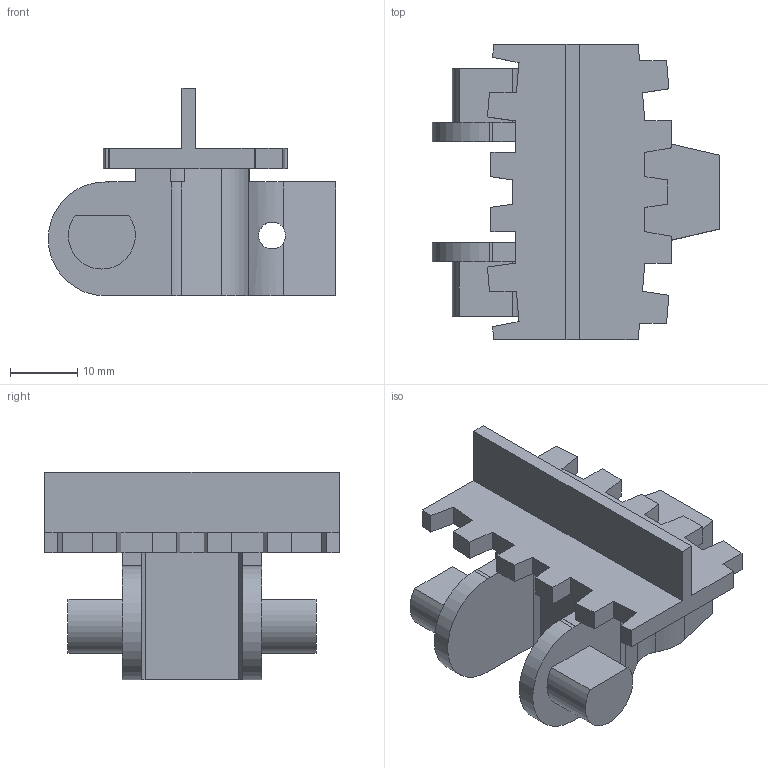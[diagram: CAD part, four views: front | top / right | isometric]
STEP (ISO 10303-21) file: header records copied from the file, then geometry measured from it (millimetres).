
FILE_DESCRIPTION (( 'STEP AP214' ), '1' );
FILE_NAME ('FKTF 5x9G-P.STEP', '2011-09-28T07:14:13', ( '.' ), ( '' ), 'SwSTEP 2.0', 'SolidWorks 2010', '' );
FILE_SCHEMA (( 'AUTOMOTIVE_DESIGN' ));
Length unit declared in the file: millimetre
Products named in the file (1): FKTF 5x9G-P
Bounding box: 42.9 x 44 x 31 mm (x, y, z)
Volume: 12626.8 mm3; surface area: 7248.6 mm2
Topology: 1 solids, 1 shells, 96 faces, 279 edges, 186 vertices
Faces by surface type: plane 79, cylinder 17
Entity records: 3253 total; most frequent: CARTESIAN_POINT 660, ORIENTED_EDGE 558, DIRECTION 497, EDGE_CURVE 279, VECTOR 239, LINE 239, VERTEX_POINT 186, AXIS2_PLACEMENT_3D 129
